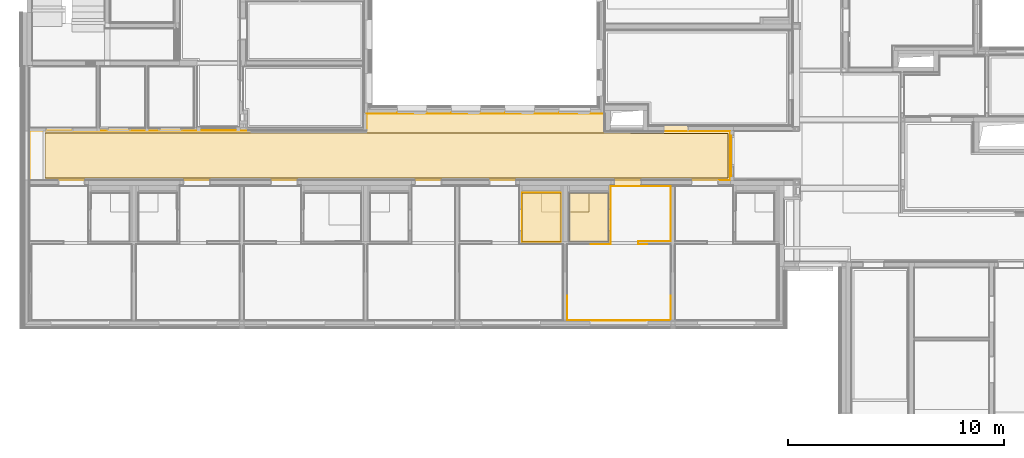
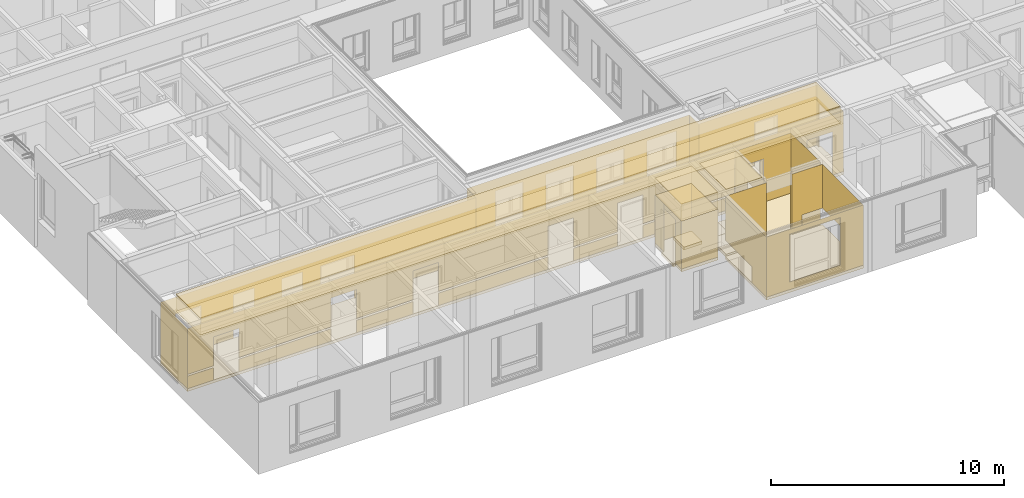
# One storey, part 157 of 222: 20 coverings.
"""IFC4 building model written with IfcOpenShell, lengths in metres."""

from ifc_helpers import new_model, entity, si_unit, converted_unit, derived_unit, frame, frame_2d, origin, origin_with_axes, place, context, subcontext, project, spatial, polyline, rectangle, outline, extrude, material, layer, layer_set, layer_usage, element, save


model = new_model("IFC4")

# Units and contexts
model_context = context("Model", 3, precision=1e-05, world=origin())
body_context = subcontext(model_context, "Body", "Model", "MODEL_VIEW")
ifc_project = project(units=[si_unit("LENGTHUNIT", "METRE"), si_unit("AREAUNIT", "SQUARE_METRE"), si_unit("VOLUMEUNIT", "CUBIC_METRE"), si_unit("MASSUNIT", "GRAM", prefix="KILO"), converted_unit("PLANEANGLEUNIT", "DEGREE", entity("IfcPlaneAngleMeasure", 0.0174532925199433), si_unit("PLANEANGLEUNIT", "RADIAN"), dimensions=[0, 0, 0, 0, 0, 0, 0]), derived_unit("THERMALTRANSMITTANCEUNIT", [(si_unit("POWERUNIT", "WATT"), 1), (si_unit("THERMODYNAMICTEMPERATUREUNIT", "KELVIN"), -1), (si_unit("LENGTHUNIT", "METRE"), -2)]), derived_unit("VOLUMETRICFLOWRATEUNIT", [(si_unit("LENGTHUNIT", "METRE"), 3), (converted_unit("TIMEUNIT", "hour", entity("IfcTimeMeasure", 3600.0), si_unit("TIMEUNIT", "SECOND"), dimensions=[0, 0, 1, 0, 0, 0, 0]), -1), (si_unit("LENGTHUNIT", "METRE"), -1)])], contexts=[model_context])

# Site, building, storey, space
site_placement = place(None, origin())
site = spatial("IfcSite", under=ifc_project, at=site_placement, Name="Psychiatrie Neubau Wunstorf", CompositionType="ELEMENT")
building_placement = place(site_placement, origin())
building = spatial("IfcBuilding", under=site, at=building_placement, Name="Neubau H2 Stationsgebäude", CompositionType="ELEMENT")
storey_placement = place(building_placement, frame((0.0, 0.0, 3.6)))
storey = spatial("IfcBuildingStorey", under=building, at=storey_placement, Name="H2 Ebene +1", CompositionType="ELEMENT", Elevation=3.6)
space_1_placement = place(storey_placement, frame((0.168999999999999, 4.33074963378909, 0.0)))
space_1 = spatial("IfcSpace", under=storey, at=space_1_placement, Name="WUN-H2-E01-073", CompositionType="ELEMENT")

# Coverings
ifc_material_1 = material(Name="D1")
ifc_layer_1 = layer(ifc_material_1, 0.001)
ifc_layer_set_1 = layer_set([ifc_layer_1])
ifc_layer_usage_1 = layer_usage(ifc_layer_set_1, "AXIS3", "POSITIVE", 0.0)
covering_1_placement = place(space_1_placement, frame((0.601000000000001, 0.0, 2.65)))
element("IfcCovering", 1, at=covering_1_placement, inside=space_1, material=ifc_layer_usage_1, Name="Gipsfaserplatten 2-lagig (BSK)", PredefinedType="CEILING", context=body_context, shape_type="SweptSolid", body=[
    extrude(outline(polyline([(0.0, 0.788999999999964), (15.019, 0.7890001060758), (15.019, 0.0), (26.0500003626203, 0.0), (26.0500003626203, 0.801999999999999), (31.8934999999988, 0.801999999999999), (31.8934999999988, 3.08325036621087), (0.0, 3.08325026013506), (0.0, 0.788999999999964)]), holes=[polyline([(0.1, 2.98325026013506), (31.7934999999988, 2.98325036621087), (31.7934999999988, 0.901999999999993), (0.1, 0.888999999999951), (0.1, 2.98325026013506)])]), frame((0.0, 3.08325036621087, 0.0), z_axis=(0.0, 0.0, -1.0), x_axis=(1.0, 0.0, 0.0)), (0.0, 0.0, 1.0), 0.001),
])
ifc_material_2 = material()
ifc_layer_2 = layer(ifc_material_2, 0.036)
ifc_layer_set_2 = layer_set([ifc_layer_2])
ifc_layer_usage_2 = layer_usage(ifc_layer_set_2, "AXIS3", "POSITIVE", 0.0)
covering_2_placement = place(space_1_placement, frame((0.701000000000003, 0.100000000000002, 3.55)))
element("IfcCovering", 2, at=covering_2_placement, inside=space_1, material=ifc_layer_usage_2, Name="Gipsfaserplatten 2-lagig (BSK)", PredefinedType="CEILING", context=body_context, shape_type="SweptSolid", body=[
    extrude(outline(polyline([(0.0, 2.0942502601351), (0.0, 0.0), (31.6934999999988, 0.0130000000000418), (31.6934999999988, 2.09425036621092), (0.0, 2.0942502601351)])), frame((0.0, 2.09425036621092, 0.0), z_axis=(0.0, 0.0, -1.0), x_axis=(1.0, 0.0, 0.0)), (0.0, 0.0, 1.0), 0.036),
])
ifc_material_3 = material(Name="Installationshöhe")
ifc_layer_3 = layer(ifc_material_3, 0.714)
ifc_layer_set_3 = layer_set([ifc_layer_3])
ifc_layer_usage_3 = layer_usage(ifc_layer_set_3, "AXIS3", "POSITIVE", 0.0)
covering_3_placement = place(space_1_placement, frame((0.701000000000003, 0.100000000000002, 3.514)))
element("IfcCovering", 3, at=covering_3_placement, inside=space_1, material=ifc_layer_usage_3, Name="Gipsfaserplatten 2-lagig (BSK)", PredefinedType="CEILING", context=body_context, shape_type="SweptSolid", body=[
    extrude(outline(polyline([(0.0, 2.0942502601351), (0.0, 0.0), (31.6934999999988, 0.0130000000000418), (31.6934999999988, 2.09425036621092), (0.0, 2.0942502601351)])), frame((0.0, 2.09425036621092, 0.0), z_axis=(0.0, 0.0, -1.0), x_axis=(1.0, 0.0, 0.0)), (0.0, 0.0, 1.0), 0.714),
])
ifc_material_4 = material(Name="Aa")
ifc_layer_4 = layer(ifc_material_4, 0.15)
ifc_layer_set_4 = layer_set([ifc_layer_4])
ifc_layer_usage_4 = layer_usage(ifc_layer_set_4, "AXIS3", "POSITIVE", 0.0)
covering_4_placement = place(space_1_placement, frame((0.701000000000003, 0.100000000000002, 2.8)))
element("IfcCovering", 4, at=covering_4_placement, inside=space_1, material=ifc_layer_usage_4, Name="Gipsfaserplatten 2-lagig (BSK)", PredefinedType="CEILING", context=body_context, shape_type="SweptSolid", body=[
    extrude(outline(polyline([(0.0, 2.0942502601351), (0.0, 0.0), (31.6934999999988, 0.0130000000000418), (31.6934999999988, 2.09425036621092), (0.0, 2.0942502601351)])), frame((0.0, 2.09425036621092, 0.0), z_axis=(0.0, 0.0, -1.0), x_axis=(1.0, 0.0, 0.0)), (0.0, 0.0, 1.0), 0.15),
])
ifc_material_5 = material(Name="D1")
ifc_layer_5 = layer(ifc_material_5, 0.001)
ifc_layer_set_5 = layer_set([ifc_layer_5])
ifc_layer_usage_5 = layer_usage(ifc_layer_set_5, "AXIS3", "POSITIVE", 0.0)
covering_5_placement = place(space_1_placement, frame((0.701000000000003, 0.100000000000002, 2.65)))
element("IfcCovering", 5, at=covering_5_placement, inside=space_1, material=ifc_layer_usage_5, Name="Gipsfaserplatten 2-lagig (BSK)", PredefinedType="CEILING", context=body_context, shape_type="SweptSolid", body=[
    extrude(outline(polyline([(0.0, 2.0942502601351), (0.0, 0.0), (31.6934999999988, 0.0130000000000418), (31.6934999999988, 2.09425036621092), (0.0, 2.0942502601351)])), frame((0.0, 2.09425036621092, 0.0), z_axis=(0.0, 0.0, -1.0), x_axis=(1.0, 0.0, 0.0)), (0.0, 0.0, 1.0), 0.001),
])
ifc_material_6 = material(Name="Ku1")
ifc_layer_6 = layer(ifc_material_6, 0.15)
ifc_layer_set_6 = layer_set([ifc_layer_6])
ifc_layer_usage_6 = layer_usage(ifc_layer_set_6, "AXIS3", "POSITIVE", 0.0)
covering_6_placement = place(space_1_placement, origin())
element("IfcCovering", 6, at=covering_6_placement, inside=space_1, material=ifc_layer_usage_6, Name="PVC Bahnenware Holzoptik", PredefinedType="FLOORING", context=body_context, shape_type="SweptSolid", body=[
    extrude(rectangle(XDim=0.115000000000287, YDim=1.9713, at=frame_2d((-0.0575000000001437, -0.98565), x_axis=(-1.0, 0.0))), frame((32.6094999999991, 2.12625018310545, 0.0), z_axis=(0.0, 0.0, 1.0), x_axis=(1.0, 0.0, 0.0)), (0.0, 0.0, 1.0), 0.15),
    extrude(rectangle(XDim=0.0399999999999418, YDim=1.6825, at=frame_2d((-0.84125, 0.0199999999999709), x_axis=(0.0, 1.0))), frame((9.59350001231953, 2.29425026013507, 0.0), z_axis=(1.35140371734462e-16, 5.68434188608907e-15, 1.0), x_axis=(1.0, 0.0, 0.0)), (0.0, -5.68434188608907e-15, 1.0), 0.15),
    extrude(rectangle(XDim=0.272, YDim=1.135, at=frame_2d((-0.5675, 0.136), x_axis=(0.0, 1.0))), frame((30.546, 2.28125036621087, 0.0), z_axis=(0.0, 0.0, 1.0), x_axis=(1.0, 0.0, 0.0)), (0.0, 0.0, 1.0), 0.15),
    extrude(outline(polyline([(26.6510003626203, 3.0832503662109), (15.62, 3.08325036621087), (15.62, 2.29425026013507), (0.0, 2.2942502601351), (0.0, 0.0), (32.4944999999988, 0.0), (32.4944999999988, 2.28125036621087), (26.6510003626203, 2.28125036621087), (26.6510003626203, 3.0832503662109)])), origin_with_axes(), (0.0, 0.0, 1.0), 0.15),
])
ifc_material_7 = material(Name="49")
ifc_layer_7 = layer(ifc_material_7, 0.001)
ifc_layer_set_7 = layer_set([ifc_layer_7])
ifc_layer_usage_7 = layer_usage(ifc_layer_set_7, "AXIS3", "POSITIVE", 0.0)
covering_7_placement = place(space_1_placement, frame((0.0, 0.0, 0.15)))
element("IfcCovering", 7, at=covering_7_placement, inside=space_1, material=ifc_layer_usage_7, PredefinedType="CLADDING", context=body_context, shape_type="SweptSolid", body=[
    extrude(outline(polyline([(0.0, 3.15), (1.94849999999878, 3.15), (1.94849999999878, 0.89), (3.08349999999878, 0.89), (3.08349999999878, 2.4), (5.8434996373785, 2.4), (5.8434996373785, 0.0), (0.0, 0.0), (0.0, 3.15)])), frame((32.4944999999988, 2.28125036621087, 3.15), z_axis=(1.80489983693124e-16, -1.0, 3.66997404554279e-15), x_axis=(-1.0, -1.80489983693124e-16, 0.0)), (0.0, 0.0, 1.0), 0.001),
    extrude(rectangle(XDim=0.65, YDim=2.75999963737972, at=frame_2d((1.37999981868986, 0.325), x_axis=(0.0, 1.0))), frame((29.411, 2.28125036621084, 0.65), z_axis=(-5.76672441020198e-15, -1.0, -2.44863958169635e-14), x_axis=(-1.0, 5.76672441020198e-15, 0.0)), (0.0, 0.0, 1.0), 0.001),
    extrude(rectangle(XDim=0.802000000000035, YDim=3.15, at=frame_2d((0.401000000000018, -1.575), x_axis=(1.0, 0.0))), frame((26.6510003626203, 2.28125036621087, 0.0), z_axis=(-1.0, 0.0, 0.0), x_axis=(0.0, 1.0, 0.0)), (0.0, 0.0, 1.0), 0.001),
    extrude(outline(polyline([(0.0, 3.15), (11.0310003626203, 3.15), (11.0310003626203, 0.0), (0.0, 0.0), (0.0, 3.15)]), holes=[polyline([(2.09983168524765, 2.75), (0.649831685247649, 2.75), (0.649831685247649, 0.635), (2.09983168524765, 0.635), (2.09983168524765, 2.75)]), polyline([(4.59974669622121, 2.75), (3.24974669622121, 2.75), (3.24974669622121, 0.635), (4.59974669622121, 0.635), (4.59974669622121, 2.75)]), polyline([(7.09974669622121, 2.75), (5.74974669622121, 2.75), (5.74974669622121, 0.635), (7.09974669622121, 0.635), (7.09974669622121, 2.75)]), polyline([(9.59974669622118, 2.75), (8.24974669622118, 2.75), (8.24974669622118, 0.635), (9.59974669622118, 0.635), (9.59974669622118, 2.75)])]), frame((26.6510003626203, 3.08325036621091, 3.15), z_axis=(1.72926110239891e-15, -1.0, 2.14089339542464e-31), x_axis=(-1.0, -1.72926110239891e-15, 0.0)), (0.0, 0.0, 1.0), 0.001),
    extrude(rectangle(XDim=0.7890001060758, YDim=3.15, at=frame_2d((0.3945000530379, -1.575), x_axis=(1.0, 0.0))), frame((15.62, 3.08325036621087, 0.0), z_axis=(1.0, 9.22174478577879e-15, 0.0), x_axis=(9.22174478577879e-15, -1.0, 0.0)), (0.0, 0.0, 1.0), 0.001),
    extrude(outline(polyline([(0.0, 3.15), (6.02649998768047, 3.15), (6.02649998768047, 0.89), (7.70899998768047, 0.89), (7.70899998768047, 3.15), (8.60400000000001, 3.15), (8.60400000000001, 0.89), (9.61400000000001, 0.89), (9.61400000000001, 3.15), (11.004, 3.15), (11.004, 0.89), (12.014, 0.89), (12.014, 3.15), (13.629, 3.15), (13.629, 0.89), (14.889, 0.89), (14.889, 3.15), (15.62, 3.15), (15.62, 0.0), (0.0, 0.0), (0.0, 2.4), (5.37899997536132, 2.4), (5.37899997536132, 2.5), (0.0, 2.5), (0.0, 3.15)])), frame((15.62, 2.29425026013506, 3.15), z_axis=(-1.78115048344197e-15, -1.0, -3.4027872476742e-15), x_axis=(-1.0, 1.78115048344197e-15, 0.0)), (0.0, 0.0, 1.0), 0.001),
    extrude(rectangle(XDim=2.2942502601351, YDim=3.15, at=frame_2d((1.14712513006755, -1.575), x_axis=(1.0, 0.0))), frame((0.0, 2.2942502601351, 0.0), z_axis=(1.0, 0.0, 0.0), x_axis=(0.0, -1.0, 0.0)), (0.0, 0.0, 1.0), 0.001),
    extrude(rectangle(XDim=1.296, YDim=0.65, at=frame_2d((0.648000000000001, -0.325), x_axis=(1.0, 0.0))), frame((0.0, 0.0, 0.0), z_axis=(7.01770603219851e-16, 1.0, 1.3992226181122e-15), x_axis=(1.0, -7.01770603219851e-16, 0.0)), (0.0, 0.0, 1.0), 0.001),
    extrude(rectangle(XDim=0.65, YDim=4.55, at=frame_2d((2.275, 0.325), x_axis=(6.99611309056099e-16, 1.0))), frame((2.556, 0.0, 0.65), z_axis=(4.99722363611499e-16, 1.0, 7.69572439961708e-15), x_axis=(1.0, -4.99722363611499e-16, 0.0)), (0.0, 0.0, 1.0), 0.001),
    extrude(rectangle(XDim=0.65, YDim=2.805, at=frame_2d((1.4025, 0.325), x_axis=(0.0, 1.0))), frame((8.366, 0.0, 0.65), z_axis=(4.86360803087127e-16, 1.0, 1.60910601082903e-14), x_axis=(1.0, -4.86360803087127e-16, 0.0)), (0.0, 0.0, 1.0), 0.001),
    extrude(rectangle(XDim=0.65, YDim=5.425, at=frame_2d((2.7125, 0.325), x_axis=(2.79844523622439e-15, 1.0))), frame((12.431, 0.0, 0.65), z_axis=(5.02946378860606e-16, 1.0, 2.51860071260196e-14), x_axis=(1.0, -5.02946378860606e-16, 0.0)), (0.0, 0.0, 1.0), 0.001),
    extrude(rectangle(XDim=0.65, YDim=4.54999999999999, at=frame_2d((2.275, 0.325), x_axis=(5.59689047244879e-15, 1.0))), frame((22.556, 0.0, 0.65), z_axis=(5.996668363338e-16, 1.0, 4.33759011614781e-14), x_axis=(1.0, -5.996668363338e-16, 0.0)), (0.0, 0.0, 1.0), 0.001),
    extrude(rectangle(XDim=0.65, YDim=2.18, at=frame_2d((1.09, 0.325), x_axis=(0.0, 1.0))), frame((19.116, 0.0, 0.65), z_axis=(4.17199404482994e-16, 1.0, 3.49805654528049e-14), x_axis=(1.0, -4.17199404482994e-16, 0.0)), (0.0, 0.0, 1.0), 0.001),
    extrude(outline(polyline([(31.946, 0.89), (31.946, 3.15), (32.4944999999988, 3.15), (32.4944999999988, 0.0), (0.0, 0.0), (0.0, 2.4), (1.296, 2.4), (1.296, 0.89), (2.556, 0.89), (2.556, 2.4), (7.106, 2.4), (7.106, 0.89), (8.366, 0.89), (8.366, 2.4), (11.171, 2.4), (11.171, 0.89), (12.431, 0.89), (12.431, 2.4), (17.856, 2.4), (17.856, 0.89), (19.116, 0.89), (19.116, 2.4), (21.296, 2.4), (21.296, 0.89), (22.556, 0.89), (22.556, 2.4), (27.106, 2.4), (27.106, 0.89), (28.366, 0.89), (28.366, 2.4), (30.686, 2.4), (30.686, 0.89), (31.946, 0.89)])), frame((0.0, 0.0, 3.15), z_axis=(5.62068950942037e-16, 1.0, -1.38838931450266e-15), x_axis=(1.0, -5.62068950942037e-16, 0.0)), (0.0, 0.0, 1.0), 0.001),
    extrude(rectangle(XDim=0.65, YDim=2.31999999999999, at=frame_2d((1.16, 0.325), x_axis=(0.0, 1.0))), frame((28.366, 0.0, 0.65), z_axis=(5.88035367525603e-16, 1.0, 5.10716255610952e-14), x_axis=(1.0, -5.88035367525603e-16, 0.0)), (0.0, 0.0, 1.0), 0.001),
    extrude(outline(polyline([(0.0, 3.15), (0.154950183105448, 3.15), (0.154950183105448, 0.89), (2.12625018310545, 0.89), (2.12625018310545, 3.15), (2.28125036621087, 3.15), (2.28125036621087, 0.0), (0.0, 0.0), (0.0, 3.15)])), frame((32.4944999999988, 0.0, 3.15), z_axis=(-1.0, 0.0, 7.99067721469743e-16), x_axis=(0.0, 1.0, 0.0)), (0.0, 0.0, 1.0), 0.001),
    extrude(rectangle(XDim=1.45, YDim=0.0499999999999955, at=frame_2d((-0.725, 0.025), x_axis=(-1.0, 3.1361886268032e-15))), frame((26.0011686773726, 3.1332503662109, 2.515), z_axis=(0.0, 0.0, -1.0), x_axis=(1.0, 0.0, 0.0)), (0.0, 0.0, 1.0), 0.001),
    extrude(rectangle(XDim=2.115, YDim=0.05, at=frame_2d((-0.025, -1.0575), x_axis=(0.0, -1.0))), frame((26.0011686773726, 3.1332503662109, 0.4), z_axis=(-1.0, 0.0, 0.0), x_axis=(0.0, 1.0, 0.0)), (0.0, 0.0, 1.0), 0.001),
    extrude(rectangle(XDim=2.115, YDim=0.0499999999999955, at=frame_2d((-0.0249999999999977, -1.0575), x_axis=(0.0, -1.0))), frame((24.5511686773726, 3.0832503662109, 0.4), z_axis=(1.0, 0.0, 0.0), x_axis=(0.0, -1.0, 0.0)), (0.0, 0.0, 1.0), 0.001),
    extrude(rectangle(XDim=1.35, YDim=0.0499999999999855, at=frame_2d((-0.675, 0.0249999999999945), x_axis=(-1.0, 2.69479911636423e-15))), frame((23.4012536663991, 3.13325036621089, 2.515), z_axis=(0.0, 0.0, -1.0), x_axis=(1.0, 0.0, 0.0)), (0.0, 0.0, 1.0), 0.001),
    extrude(rectangle(XDim=2.115, YDim=0.0499999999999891, at=frame_2d((-0.0249999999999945, -1.0575), x_axis=(0.0, -1.0))), frame((23.4012536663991, 3.13325036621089, 0.4), z_axis=(-1.0, 0.0, 0.0), x_axis=(0.0, 1.0, 0.0)), (0.0, 0.0, 1.0), 0.001),
    extrude(rectangle(XDim=2.115, YDim=0.0499999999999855, at=frame_2d((-0.0249999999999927, -1.0575), x_axis=(0.0, -1.0))), frame((22.0512536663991, 3.0832503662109, 0.4), z_axis=(1.0, 0.0, 0.0), x_axis=(0.0, -1.0, 0.0)), (0.0, 0.0, 1.0), 0.001),
    extrude(rectangle(XDim=1.35, YDim=0.0499999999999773, at=frame_2d((-0.675, 0.02499999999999), x_axis=(-1.0, 2.02109933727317e-15))), frame((20.9012536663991, 3.13325036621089, 2.515), z_axis=(0.0, 0.0, -1.0), x_axis=(1.0, 0.0, 0.0)), (0.0, 0.0, 1.0), 0.001),
    extrude(rectangle(XDim=2.115, YDim=0.04999999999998, at=frame_2d((-0.0249999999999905, -1.0575), x_axis=(-4.30021135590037e-16, -1.0))), frame((20.9012536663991, 3.13325036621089, 0.4), z_axis=(-1.0, 0.0, 0.0), x_axis=(0.0, 1.0, 0.0)), (0.0, 0.0, 1.0), 0.001),
    extrude(rectangle(XDim=2.115, YDim=0.0499999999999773, at=frame_2d((-0.0249999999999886, -1.0575), x_axis=(0.0, -1.0))), frame((19.5512536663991, 3.08325036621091, 0.4), z_axis=(1.0, 0.0, 0.0), x_axis=(0.0, -1.0, 0.0)), (0.0, 0.0, 1.0), 0.001),
    extrude(rectangle(XDim=0.0499999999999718, YDim=1.35, at=frame_2d((-0.675, -0.0249999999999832), x_axis=(0.0, -1.0))), frame((18.4012536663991, 3.08325036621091, 2.515), z_axis=(0.0, 0.0, -1.0), x_axis=(1.0, 0.0, 0.0)), (0.0, 0.0, 1.0), 0.001),
    extrude(rectangle(XDim=0.0499999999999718, YDim=2.115, at=frame_2d((0.0249999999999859, -1.0575), x_axis=(1.0, 0.0))), frame((18.4012536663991, 3.08325036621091, 0.4), z_axis=(-1.0, 0.0, 0.0), x_axis=(0.0, 1.0, 0.0)), (0.0, 0.0, 1.0), 0.001),
    extrude(rectangle(XDim=2.115, YDim=0.0499999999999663, at=frame_2d((-0.0249999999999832, -1.0575), x_axis=(0.0, -1.0))), frame((17.0512536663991, 3.08325036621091, 0.4), z_axis=(1.0, -3.6379788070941e-14, 8.60042271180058e-16), x_axis=(-3.6379788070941e-14, -1.0, 0.0)), (0.0, 0.0, 1.0), 0.001),
    extrude(rectangle(XDim=2.26, YDim=0.0400000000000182, at=frame_2d((0.0200000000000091, 1.13), x_axis=(0.0, 1.0))), frame((7.91100001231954, 2.33425026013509, 2.26), z_axis=(1.0, 0.0, 0.0), x_axis=(0.0, -1.0, 0.0)), (0.0, 0.0, 1.0), 0.001),
    extrude(rectangle(XDim=1.6825, YDim=0.0400000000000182, at=frame_2d((-0.84125, 0.0200000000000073), x_axis=(-1.0, -2.16224594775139e-15))), frame((9.59350001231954, 2.33425026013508, 2.26), z_axis=(0.0, 0.0, -1.0), x_axis=(1.0, 0.0, 0.0)), (0.0, 0.0, 1.0), 0.001),
    extrude(rectangle(XDim=0.0400000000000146, YDim=2.26, at=frame_2d((0.0200000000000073, -1.13), x_axis=(1.0, 0.0))), frame((9.59350001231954, 2.29425026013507, 0.0), z_axis=(-1.0, 0.0, 0.0), x_axis=(0.0, 1.0, 0.0)), (0.0, 0.0, 1.0), 0.001),
    extrude(rectangle(XDim=0.0349999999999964, YDim=2.26, at=frame_2d((0.0174999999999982, -1.13), x_axis=(1.0, 0.0))), frame((32.4944999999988, 0.154950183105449, 0.0), z_axis=(0.0, 1.0, 0.0), x_axis=(1.0, 0.0, 0.0)), (0.0, 0.0, 1.0), 0.001),
    extrude(rectangle(XDim=1.9713, YDim=0.0349999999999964, at=frame_2d((0.0174999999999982, 0.98565), x_axis=(0.0, 1.0))), frame((32.4944999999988, 2.12625018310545, 2.26), z_axis=(0.0, 0.0, -1.0), x_axis=(1.0, 0.0, 0.0)), (0.0, 0.0, 1.0), 0.001),
    extrude(rectangle(XDim=2.26, YDim=0.0349999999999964, at=frame_2d((0.0174999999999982, 1.13), x_axis=(0.0, 1.0))), frame((32.5294999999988, 2.12625018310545, 2.26), z_axis=(0.0, -1.0, 0.0), x_axis=(-1.0, 0.0, 0.0)), (0.0, 0.0, 1.0), 0.001),
])

# Space
space_2_placement = place(storey_placement, frame((25.1, -2.16399999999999, 0.0)))
space_2 = spatial("IfcSpace", under=storey, at=space_2_placement, Name="WUN-H2-E01-020", CompositionType="ELEMENT")

# Coverings
ifc_material_8 = material(Name="Ku1")
ifc_layer_8 = layer(ifc_material_8, 0.15)
ifc_layer_set_8 = layer_set([ifc_layer_8])
ifc_layer_usage_8 = layer_usage(ifc_layer_set_8, "AXIS3", "POSITIVE", 0.0)
covering_8_placement = place(space_2_placement, origin())
element("IfcCovering", 8, at=covering_8_placement, inside=space_2, material=ifc_layer_usage_8, Name="PVC Bahnenware Holzoptik", PredefinedType="FLOORING", context=body_context, shape_type="SweptSolid", body=[
    extrude(rectangle(XDim=0.271999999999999, YDim=1.26, at=frame_2d((-0.63, 0.136), x_axis=(0.0, 1.0))), frame((3.43500000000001, 6.22274963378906, 0.0), z_axis=(0.0, 0.0, 1.0), x_axis=(1.0, 0.0, 0.0)), (0.0, 0.0, 1.0), 0.15),
    extrude(outline(polyline([(3.29999999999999, 3.67274963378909), (4.8, 3.67274963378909), (4.80000000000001, 6.22274963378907), (2.025, 6.22274963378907), (2.025, 3.5227496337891), (0.0, 3.5227496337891), (0.0, 0.0), (4.80000000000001, 0.0), (4.80000000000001, 3.52274963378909), (3.29999999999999, 3.52274963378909), (3.29999999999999, 3.67274963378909)])), origin_with_axes(), (0.0, 0.0, 1.0), 0.15),
])
ifc_material_9 = material(Name="49")
ifc_layer_9 = layer(ifc_material_9, 0.001)
ifc_layer_set_9 = layer_set([ifc_layer_9])
ifc_layer_usage_9 = layer_usage(ifc_layer_set_9, "AXIS3", "POSITIVE", 0.0)
covering_9_placement = place(space_2_placement, frame((0.0, -0.025, 0.15)))
element("IfcCovering", 9, at=covering_9_placement, inside=space_2, material=ifc_layer_usage_9, PredefinedType="CLADDING", context=body_context, shape_type="SweptSolid", body=[
    extrude(outline(polyline([(0.999999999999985, 3.15), (1.50000000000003, 3.15), (1.50000000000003, 0.0), (0.0, 0.0), (0.0, 2.3), (0.999999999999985, 2.3), (0.999999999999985, 3.15)])), frame((4.80000000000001, 3.54774963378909, 3.15), z_axis=(-1.82276324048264e-15, -1.0, -7.92505756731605e-16), x_axis=(-1.0, 1.82276324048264e-15, 0.0)), (0.0, 0.0, 1.0), 0.001),
    extrude(rectangle(XDim=0.15, YDim=3.15, at=frame_2d((0.0749999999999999, -1.575), x_axis=(1.0, 0.0))), frame((3.29999999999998, 3.54774963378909, 0.0), z_axis=(-1.0, 4.85063840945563e-14, 0.0), x_axis=(4.85063840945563e-14, 1.0, 0.0)), (0.0, 0.0, 1.0), 0.001),
    extrude(rectangle(XDim=1.50000000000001, YDim=3.15, at=frame_2d((0.750000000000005, -1.575), x_axis=(1.0, 0.0))), frame((3.29999999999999, 3.69774963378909, 0.0), z_axis=(0.0, 1.0, 0.0), x_axis=(1.0, 0.0, 0.0)), (0.0, 0.0, 1.0), 0.001),
    extrude(rectangle(XDim=2.54999999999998, YDim=3.15, at=frame_2d((1.27499999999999, -1.575), x_axis=(1.0, 0.0))), frame((4.8, 3.69774963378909, 0.0), z_axis=(-1.0, 2.85331671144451e-15, -1.02979223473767e-31), x_axis=(2.85331671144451e-15, 1.0, 0.0)), (0.0, 0.0, 1.0), 0.001),
    extrude(outline(polyline([(0.0, 3.15), (1.36500000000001, 3.15), (1.36500000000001, 0.89), (2.62500000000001, 0.89), (2.62500000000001, 3.15), (2.77500000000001, 3.15), (2.77500000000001, 0.0), (0.0, 0.0), (0.0, 3.15)])), frame((4.80000000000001, 6.24774963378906, 3.15), z_axis=(-1.5595754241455e-16, -1.0, -1.07238062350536e-15), x_axis=(-1.0, 1.5595754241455e-16, 0.0)), (0.0, 0.0, 1.0), 0.001),
    extrude(outline(polyline([(0.0, 3.15), (1.06499999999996, 3.15), (1.06499999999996, 0.89), (2.07499999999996, 0.89), (2.07499999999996, 3.15), (2.69999999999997, 3.15), (2.69999999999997, 0.0), (0.0, 0.0), (0.0, 3.15)])), frame((2.025, 6.24774963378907, 3.15), z_axis=(1.0, 2.2608073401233e-15, -8.49492083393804e-17), x_axis=(2.2608073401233e-15, -1.0, 0.0)), (0.0, 0.0, 1.0), 0.001),
    extrude(outline(polyline([(0.0, 3.15), (1.025, 3.15), (1.025, 2.3), (2.025, 2.3), (2.025, 0.0), (0.0, 0.0), (0.0, 3.15)])), frame((2.025, 3.5477496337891, 3.15), z_axis=(0.0, -1.0, 0.0), x_axis=(-1.0, 0.0, 0.0)), (0.0, 0.0, 1.0), 0.001),
    extrude(outline(polyline([(2.3, 3.15), (3.5227496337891, 3.15), (3.5227496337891, 0.0), (0.0, 0.0), (0.0, 2.3), (2.3, 2.3), (2.3, 3.15)])), frame((0.0, 3.5477496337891, 3.15), z_axis=(1.0, 3.27333599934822e-16, 1.31341841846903e-31), x_axis=(3.27333599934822e-16, -1.0, 0.0)), (0.0, 0.0, 1.0), 0.001),
    extrude(outline(polyline([(0.0, 3.15), (4.80000000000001, 3.15), (4.80000000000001, 0.0), (0.0, 0.0), (0.0, 3.15)]), holes=[polyline([(3.65, 2.75), (1.15, 2.75), (1.15, 0.25), (3.65, 0.25), (3.65, 2.75)])]), frame((0.0, 0.0249999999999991, 3.15), z_axis=(5.31992689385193e-17, 1.0, 0.0), x_axis=(1.0, -5.31992689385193e-17, 0.0)), (0.0, 0.0, 1.0), 0.001),
    extrude(outline(polyline([(0.0, 3.15), (1.2227496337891, 3.15), (1.2227496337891, 2.3), (3.52274963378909, 2.3), (3.52274963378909, 0.0), (0.0, 0.0), (0.0, 3.15)])), frame((4.8, 0.025, 3.15), z_axis=(-1.0, -1.72652428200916e-15, -1.21832263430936e-15), x_axis=(-1.72652428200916e-15, 1.0, 0.0)), (0.0, 0.0, 1.0), 0.001),
    extrude(rectangle(XDim=0.0249999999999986, YDim=2.5, at=frame_2d((0.0124999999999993, -1.25), x_axis=(1.0, 0.0))), frame((1.15, 0.0249999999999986, 0.4), z_axis=(1.0, 0.0, 0.0), x_axis=(0.0, -1.0, 0.0)), (0.0, 0.0, 1.0), 0.001),
    extrude(rectangle(XDim=2.5, YDim=0.0249999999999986, at=frame_2d((-1.25, 0.0124999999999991), x_axis=(-1.0, -1.81898940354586e-16))), frame((3.65, 0.0249999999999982, 2.9), z_axis=(0.0, 0.0, -1.0), x_axis=(1.0, 0.0, 0.0)), (0.0, 0.0, 1.0), 0.001),
    extrude(rectangle(XDim=2.5, YDim=0.0249999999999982, at=frame_2d((-0.0124999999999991, -1.25), x_axis=(0.0, -1.0))), frame((3.65, 0.0249999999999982, 0.4), z_axis=(-1.0, 0.0, 0.0), x_axis=(0.0, 1.0, 0.0)), (0.0, 0.0, 1.0), 0.001),
])

# Space
space_3_placement = place(storey_placement, frame((25.2, 1.48374963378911, 0.0)))
space_3 = spatial("IfcSpace", under=storey, at=space_3_placement, Name="WUN-H2-E01-020a", CompositionType="ELEMENT")

# Coverings
ifc_material_10 = material(Name="Fl2")
ifc_layer_10 = layer(ifc_material_10, 0.15)
ifc_layer_set_10 = layer_set([ifc_layer_10])
ifc_layer_usage_10 = layer_usage(ifc_layer_set_10, "AXIS3", "POSITIVE", 0.0)
covering_10_placement = place(space_3_placement, frame((0.0, 1.36499999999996, 0.0)))
element("IfcCovering", 10, at=covering_10_placement, inside=space_3, material=ifc_layer_usage_10, Name="Fliesen Mosaik", PredefinedType="FLOORING", context=body_context, shape_type="SweptSolid", body=[
    extrude(rectangle(XDim=0.9, YDim=0.9, at=frame_2d((0.45, -0.45), x_axis=(0.0, -1.0))), frame((0.0, 0.9, 0.0), z_axis=(0.0, 0.0, 1.0), x_axis=(1.0, 0.0, 0.0)), (0.0, 0.0, 1.0), 0.15),
])
ifc_material_11 = material(Name="Fl1")
ifc_layer_11 = layer(ifc_material_11, 0.15)
ifc_layer_set_11 = layer_set([ifc_layer_11])
ifc_layer_usage_11 = layer_usage(ifc_layer_set_11, "AXIS3", "POSITIVE", 0.0)
covering_11_placement = place(space_3_placement, origin())
element("IfcCovering", 11, at=covering_11_placement, inside=space_3, material=ifc_layer_usage_11, Name="Fliesen", PredefinedType="FLOORING", context=body_context, shape_type="SweptSolid", body=[
    extrude(rectangle(XDim=0.125, YDim=1.01, at=frame_2d((-0.0625, -0.505), x_axis=(-1.0, 0.0))), frame((1.925, 1.51000000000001, 0.0), z_axis=(0.0, 0.0, 1.0), x_axis=(1.0, 0.0, 0.0)), (0.0, 0.0, 1.0), 0.15),
    extrude(outline(polyline([(0.0, 0.0), (1.8, 0.0), (1.8, 2.265), (0.9, 2.265), (0.9, 1.36499999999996), (0.0, 1.36499999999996), (0.0, 0.0)])), origin_with_axes(), (0.0, 0.0, 1.0), 0.15),
])
ifc_material_12 = material()
ifc_layer_12 = layer(ifc_material_12, 0.036)
ifc_layer_set_12 = layer_set([ifc_layer_12])
ifc_layer_usage_12 = layer_usage(ifc_layer_set_12, "AXIS3", "POSITIVE", 0.0)
covering_12_placement = place(space_3_placement, frame((0.0, 0.0, 3.55)))
element("IfcCovering", 12, at=covering_12_placement, inside=space_3, material=ifc_layer_usage_12, Name="Gipsfaserplatten 2-lagig (BSK)", PredefinedType="CEILING", context=body_context, shape_type="SweptSolid", body=[
    extrude(rectangle(XDim=1.8, YDim=2.265, at=frame_2d((0.9, 1.1325), x_axis=(1.0, 0.0))), frame((0.0, 2.265, 0.0), z_axis=(0.0, 0.0, -1.0), x_axis=(1.0, 0.0, 0.0)), (0.0, 0.0, 1.0), 0.036),
])

# Space
space_4_placement = place(storey_placement, frame((23.0, 1.48374963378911, 0.0)))
space_4 = spatial("IfcSpace", under=storey, at=space_4_placement, Name="WUN-H2-E01-021a", CompositionType="ELEMENT")

# Coverings
ifc_material_13 = material(Name="Fl2")
ifc_layer_13 = layer(ifc_material_13, 0.15)
ifc_layer_set_13 = layer_set([ifc_layer_13])
ifc_layer_usage_13 = layer_usage(ifc_layer_set_13, "AXIS3", "POSITIVE", 0.0)
covering_13_placement = place(space_4_placement, frame((0.899999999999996, 1.36499999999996, 0.0)))
element("IfcCovering", 13, at=covering_13_placement, inside=space_4, material=ifc_layer_usage_13, Name="Fliesen Mosaik", PredefinedType="FLOORING", context=body_context, shape_type="SweptSolid", body=[
    extrude(rectangle(XDim=0.9, YDim=0.9, at=frame_2d((-0.45, -0.45), x_axis=(-1.0, 0.0))), frame((0.9, 0.9, 0.0), z_axis=(0.0, 0.0, 1.0), x_axis=(1.0, 0.0, 0.0)), (0.0, 0.0, 1.0), 0.15),
])
ifc_material_14 = material(Name="Fl1")
ifc_layer_14 = layer(ifc_material_14, 0.15)
ifc_layer_set_14 = layer_set([ifc_layer_14])
ifc_layer_usage_14 = layer_usage(ifc_layer_set_14, "AXIS3", "POSITIVE", 0.0)
covering_14_placement = place(space_4_placement, frame((-0.125, 0.0, 0.0)))
element("IfcCovering", 14, at=covering_14_placement, inside=space_4, material=ifc_layer_usage_14, Name="Fliesen", PredefinedType="FLOORING", context=body_context, shape_type="SweptSolid", body=[
    extrude(rectangle(XDim=0.125, YDim=1.01, at=frame_2d((0.0625, 0.505), x_axis=(1.0, 0.0))), frame((0.0, 0.500000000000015, 0.0), z_axis=(0.0, 0.0, 1.0), x_axis=(1.0, 0.0, 0.0)), (0.0, 0.0, 1.0), 0.15),
    extrude(outline(polyline([(0.0, 0.0), (1.8, 0.0), (1.8, 1.36499999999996), (0.899999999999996, 1.36499999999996), (0.899999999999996, 2.265), (0.0, 2.265), (0.0, 0.0)])), frame((0.125, 0.0, 0.0), z_axis=(0.0, 0.0, 1.0), x_axis=(1.0, 0.0, 0.0)), (0.0, 0.0, 1.0), 0.15),
])
ifc_material_15 = material()
ifc_layer_15 = layer(ifc_material_15, 0.036)
ifc_layer_set_15 = layer_set([ifc_layer_15])
ifc_layer_usage_15 = layer_usage(ifc_layer_set_15, "AXIS3", "POSITIVE", 0.0)
covering_15_placement = place(space_4_placement, frame((0.0, 0.0, 3.55)))
element("IfcCovering", 15, at=covering_15_placement, inside=space_4, material=ifc_layer_usage_15, Name="Gipsfaserplatten 2-lagig (BSK)", PredefinedType="CEILING", context=body_context, shape_type="SweptSolid", body=[
    extrude(rectangle(XDim=2.265, YDim=1.8, at=frame_2d((0.899999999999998, -1.1325), x_axis=(0.0, -1.0))), frame((0.0, 0.0, 0.0), z_axis=(0.0, 0.0, -1.0), x_axis=(1.0, 0.0, 0.0)), (0.0, 0.0, 1.0), 0.036),
])
ifc_material_16 = material(Name="Installationshöhe")
ifc_layer_16 = layer(ifc_material_16, 0.764)
ifc_layer_set_16 = layer_set([ifc_layer_16])
ifc_layer_usage_16 = layer_usage(ifc_layer_set_16, "AXIS3", "POSITIVE", 0.0)
covering_16_placement = place(space_4_placement, frame((0.0, 0.0, 3.514)))
element("IfcCovering", 16, at=covering_16_placement, inside=space_4, material=ifc_layer_usage_16, Name="Gipsfaserplatten 2-lagig (BSK)", PredefinedType="CEILING", context=body_context, shape_type="SweptSolid", body=[
    extrude(rectangle(XDim=2.265, YDim=1.8, at=frame_2d((0.899999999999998, -1.1325), x_axis=(0.0, -1.0))), frame((0.0, 0.0, 0.0), z_axis=(0.0, 0.0, -1.0), x_axis=(1.0, 0.0, 0.0)), (0.0, 0.0, 1.0), 0.764),
])
ifc_material_17 = material(Name="B")
ifc_layer_17 = layer(ifc_material_17, 0.1)
ifc_layer_set_17 = layer_set([ifc_layer_17])
ifc_layer_usage_17 = layer_usage(ifc_layer_set_17, "AXIS3", "POSITIVE", 0.0)
covering_17_placement = place(space_4_placement, frame((0.0, 0.0, 2.75)))
element("IfcCovering", 17, at=covering_17_placement, inside=space_4, material=ifc_layer_usage_17, Name="Gipskarton, imprägniert", PredefinedType="CEILING", context=body_context, shape_type="SweptSolid", body=[
    extrude(rectangle(XDim=2.265, YDim=1.8, at=frame_2d((0.899999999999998, -1.1325), x_axis=(0.0, -1.0))), frame((0.0, 0.0, 0.0), z_axis=(0.0, 0.0, -1.0), x_axis=(1.0, 0.0, 0.0)), (0.0, 0.0, 1.0), 0.1),
])
ifc_material_18 = material(Name="D1")
ifc_layer_18 = layer(ifc_material_18, 0.001)
ifc_layer_set_18 = layer_set([ifc_layer_18])
ifc_layer_usage_18 = layer_usage(ifc_layer_set_18, "AXIS3", "POSITIVE", 0.0)
covering_18_placement = place(space_4_placement, frame((0.0, 0.0, 2.65)))
element("IfcCovering", 18, at=covering_18_placement, inside=space_4, material=ifc_layer_usage_18, Name="Gipsfaserplatten 2-lagig (BSK)", PredefinedType="CEILING", context=body_context, shape_type="SweptSolid", body=[
    extrude(rectangle(XDim=2.265, YDim=1.8, at=frame_2d((0.899999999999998, -1.1325), x_axis=(0.0, -1.0))), frame((0.0, 0.0, 0.0), z_axis=(0.0, 0.0, -1.0), x_axis=(1.0, 0.0, 0.0)), (0.0, 0.0, 1.0), 0.001),
])
ifc_material_19 = material(Name="50")
ifc_layer_19 = layer(ifc_material_19, 0.001)
ifc_layer_set_19 = layer_set([ifc_layer_19])
ifc_layer_usage_19 = layer_usage(ifc_layer_set_19, "AXIS3", "POSITIVE", 0.0)
covering_19_placement = place(space_4_placement, frame((0.0, 0.0, 0.15)))
element("IfcCovering", 19, at=covering_19_placement, inside=space_4, material=ifc_layer_usage_19, PredefinedType="CLADDING", context=body_context, shape_type="SweptSolid", body=[
    extrude(outline(polyline([(0.0, 2.5), (0.0149999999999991, 2.5), (0.0149999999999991, 0.24), (1.025, 0.24), (1.025, 2.5), (1.52500000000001, 2.5), (1.52500000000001, 0.0), (0.0, 0.0), (0.0, 2.5)])), frame((0.0, 1.52500000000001, 2.5), z_axis=(1.0, 0.0, 0.0), x_axis=(0.0, -1.0, 0.0)), (0.0, 0.0, 1.0), 0.001),
    extrude(rectangle(XDim=1.8, YDim=2.5, at=frame_2d((0.899999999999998, -1.25), x_axis=(1.0, 0.0))), frame((0.0, 0.0, 0.0), z_axis=(0.0, 1.0, 0.0), x_axis=(1.0, 0.0, 0.0)), (0.0, 0.0, 1.0), 0.001),
])
ifc_material_20 = material(Name="68")
ifc_layer_20 = layer(ifc_material_20, 0.01)
ifc_layer_set_20 = layer_set([ifc_layer_20])
ifc_layer_usage_20 = layer_usage(ifc_layer_set_20, "AXIS3", "POSITIVE", 0.0)
covering_20_placement = place(space_4_placement, frame((0.0, 0.0, 0.15)))
element("IfcCovering", 20, at=covering_20_placement, inside=space_4, material=ifc_layer_usage_20, Name="a-sh Wandbelag", PredefinedType="CLADDING", context=body_context, shape_type="SweptSolid", body=[
    extrude(rectangle(XDim=2.26499999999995, YDim=2.5, at=frame_2d((1.13249999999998, -1.25), x_axis=(1.0, 0.0))), frame((1.8, 0.0, 0.0), z_axis=(-1.0, 0.0, 0.0), x_axis=(0.0, 1.0, 0.0)), (0.0, 0.0, 1.0), 0.01),
    extrude(rectangle(XDim=0.739999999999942, YDim=2.5, at=frame_2d((0.369999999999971, -1.25), x_axis=(1.0, 0.0))), frame((0.0, 2.26499999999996, 0.0), z_axis=(1.0, 0.0, 0.0), x_axis=(0.0, -1.0, 0.0)), (0.0, 0.0, 1.0), 0.01),
    extrude(rectangle(XDim=1.8, YDim=2.5, at=frame_2d((0.899999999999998, -1.25), x_axis=(1.0, 0.0))), frame((1.8, 2.26499999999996, 0.0), z_axis=(0.0, -1.0, 0.0), x_axis=(-1.0, 0.0, 0.0)), (0.0, 0.0, 1.0), 0.01),
])

save(model, "model.ifc")
